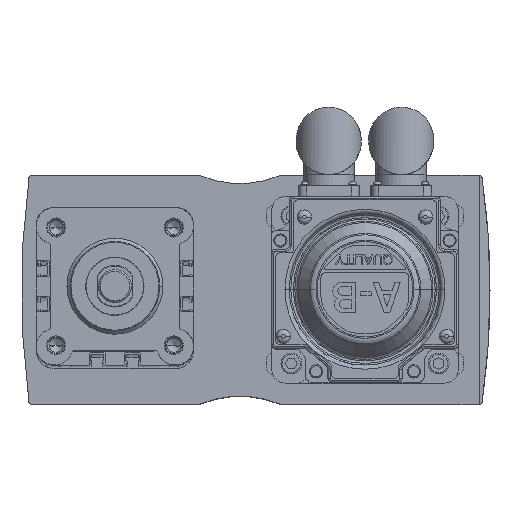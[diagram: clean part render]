
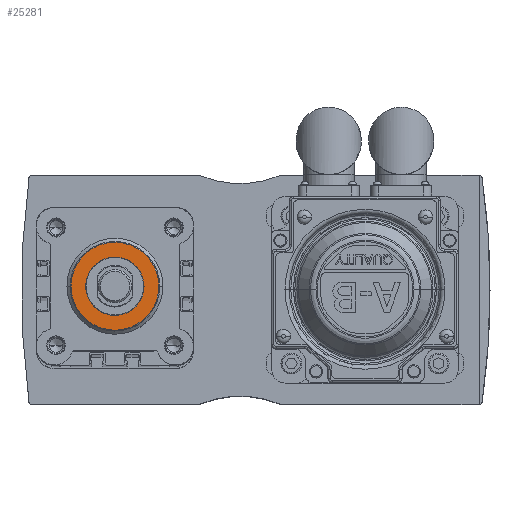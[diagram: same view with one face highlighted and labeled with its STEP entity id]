
A CAD part, top view. The second image highlights one B-rep face of the part: STEP entity #25281.
In plain terms, the highlighted planar face has unit normal (0, 0, 1).
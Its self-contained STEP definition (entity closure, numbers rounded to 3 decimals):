
#1792 = PLANE ( 'NONE',  #21748 ) ;
#2557 = CIRCLE ( 'NONE', #43774, 14. ) ;
#4136 = CARTESIAN_POINT ( 'NONE',  ( 0., 0., 28. ) ) ;
#4320 = DIRECTION ( 'NONE',  ( 0., 0., 1. ) ) ;
#4907 = CIRCLE ( 'NONE', #55198, 14. ) ;
#5275 = CIRCLE ( 'NONE', #52221, 21.1 ) ;
#6892 = DIRECTION ( 'NONE',  ( 0., 0., 1. ) ) ;
#9085 = DIRECTION ( 'NONE',  ( -1., 0., 0. ) ) ;
#9283 = DIRECTION ( 'NONE',  ( 0., 0., 1. ) ) ;
#9650 = CARTESIAN_POINT ( 'NONE',  ( 0., 0., 28. ) ) ;
#13375 = ORIENTED_EDGE ( 'NONE', *, *, #38194, .T. ) ;
#14434 = ORIENTED_EDGE ( 'NONE', *, *, #52727, .T. ) ;
#14504 = ORIENTED_EDGE ( 'NONE', *, *, #47853, .T. ) ;
#14577 = DIRECTION ( 'NONE',  ( -1., 0., 0. ) ) ;
#16318 = EDGE_LOOP ( 'NONE', ( #56515, #14504 ) ) ;
#19494 = CARTESIAN_POINT ( 'NONE',  ( 21.1, 0., 28. ) ) ;
#21151 = EDGE_CURVE ( 'NONE', #36367, #35356, #2557, .T. ) ;
#21748 = AXIS2_PLACEMENT_3D ( 'NONE', #26188, #6892, #41163 ) ;
#24378 = CARTESIAN_POINT ( 'NONE',  ( -21.1, 0., 28. ) ) ;
#25281 = ADVANCED_FACE ( 'NONE', ( #35672, #50264 ), #1792, .T. ) ;
#26137 = EDGE_LOOP ( 'NONE', ( #13375, #14434 ) ) ;
#26188 = CARTESIAN_POINT ( 'NONE',  ( 0., 10.55, 28. ) ) ;
#29985 = AXIS2_PLACEMENT_3D ( 'NONE', #33626, #4320, #38559 ) ;
#33626 = CARTESIAN_POINT ( 'NONE',  ( 0., 0., 28. ) ) ;
#34349 = CIRCLE ( 'NONE', #29985, 21.1 ) ;
#35356 = VERTEX_POINT ( 'NONE', #55016 ) ;
#35672 = FACE_BOUND ( 'NONE', #16318, .T. ) ;
#36367 = VERTEX_POINT ( 'NONE', #45291 ) ;
#38194 = EDGE_CURVE ( 'NONE', #62674, #46480, #5275, .T. ) ;
#38393 = DIRECTION ( 'NONE',  ( 0., 0., -1. ) ) ;
#38559 = DIRECTION ( 'NONE',  ( -1., 0., 0. ) ) ;
#38586 = CARTESIAN_POINT ( 'NONE',  ( 0., 0., 28. ) ) ;
#41163 = DIRECTION ( 'NONE',  ( 1., 0., 0. ) ) ;
#43526 = DIRECTION ( 'NONE',  ( -1., 0., 0. ) ) ;
#43774 = AXIS2_PLACEMENT_3D ( 'NONE', #9650, #43872, #14577 ) ;
#43872 = DIRECTION ( 'NONE',  ( 0., 0., -1. ) ) ;
#45291 = CARTESIAN_POINT ( 'NONE',  ( -14., 0., 28. ) ) ;
#46480 = VERTEX_POINT ( 'NONE', #19494 ) ;
#47853 = EDGE_CURVE ( 'NONE', #35356, #36367, #4907, .T. ) ;
#50264 = FACE_OUTER_BOUND ( 'NONE', #26137, .T. ) ;
#52221 = AXIS2_PLACEMENT_3D ( 'NONE', #38586, #9283, #43526 ) ;
#52727 = EDGE_CURVE ( 'NONE', #46480, #62674, #34349, .T. ) ;
#55016 = CARTESIAN_POINT ( 'NONE',  ( 14., 0., 28. ) ) ;
#55198 = AXIS2_PLACEMENT_3D ( 'NONE', #4136, #38393, #9085 ) ;
#56515 = ORIENTED_EDGE ( 'NONE', *, *, #21151, .T. ) ;
#62674 = VERTEX_POINT ( 'NONE', #24378 ) ;
